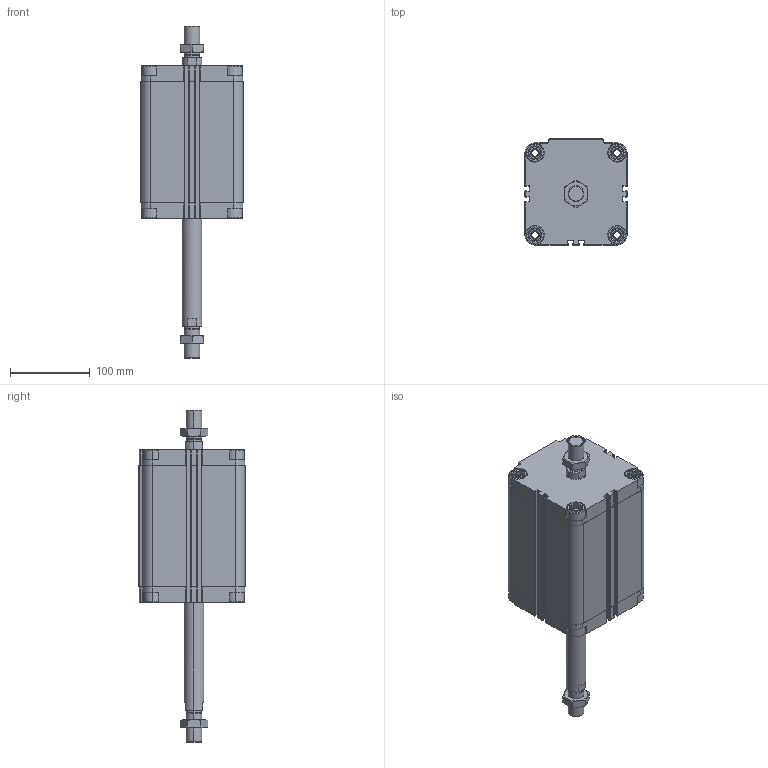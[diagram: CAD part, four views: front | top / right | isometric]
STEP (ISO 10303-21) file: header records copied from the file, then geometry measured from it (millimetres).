
FILE_DESCRIPTION (( 'STEP AP203' ), '1' );
FILE_NAME ('CDVU100-125M-P.STEP', '2020-07-21T16:40:46', ( '' ), ( '' ), 'SwSTEP 2.0', 'SolidWorks 2019', '' );
FILE_SCHEMA (( 'CONFIG_CONTROL_DESIGN' ));
Length unit declared in the file: millimetre
Products named in the file (1): CDVU100-125M-P
Bounding box: 128 x 133 x 416.5 mm (x, y, z)
Volume: 2190623.3 mm3; surface area: 299822.3 mm2
Topology: 4 solids, 4 shells, 706 faces, 1888 edges, 1234 vertices
Faces by surface type: plane 410, cylinder 216, cone 80
Entity records: 23055 total; most frequent: CARTESIAN_POINT 5265, ORIENTED_EDGE 3768, DIRECTION 3610, EDGE_CURVE 1884, AXIS2_PLACEMENT_3D 1235, VERTEX_POINT 1234, LINE 1140, VECTOR 1140
